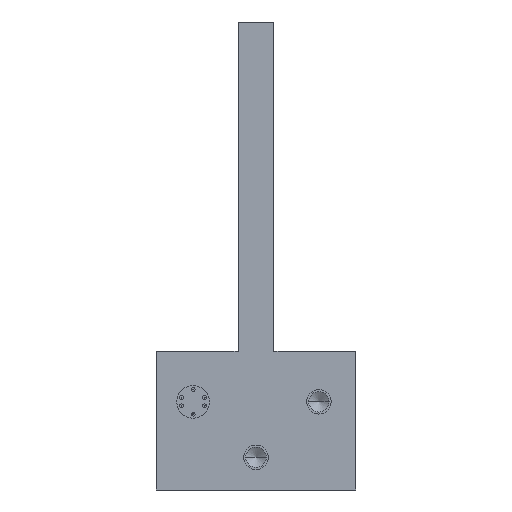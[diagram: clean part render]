
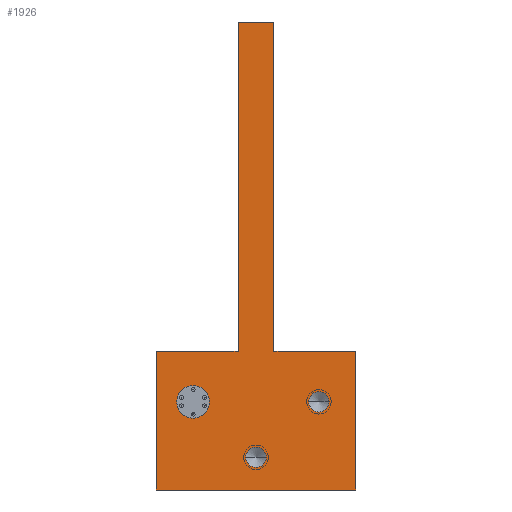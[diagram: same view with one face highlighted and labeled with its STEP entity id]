
A CAD part, front view. The second image highlights one B-rep face of the part: STEP entity #1926.
In plain terms, the highlighted planar face has unit normal (0, -1, 0).
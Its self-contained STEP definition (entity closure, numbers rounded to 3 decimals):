
#1=DIRECTION('',(1.,0.,0.));
#2=VECTOR('',#1,10.);
#3=CARTESIAN_POINT('',(2.2,-151.41,0.));
#4=LINE('',#3,#2);
#5=DIRECTION('',(0.,0.,-1.));
#6=VECTOR('',#5,17.);
#7=CARTESIAN_POINT('',(12.2,-151.41,0.));
#8=LINE('',#7,#6);
#9=DIRECTION('',(-1.,0.,0.));
#10=VECTOR('',#9,24.4);
#11=CARTESIAN_POINT('',(12.2,-151.41,-17.));
#12=LINE('',#11,#10);
#13=DIRECTION('',(0.,0.,1.));
#14=VECTOR('',#13,17.);
#15=CARTESIAN_POINT('',(-12.2,-151.41,-17.));
#16=LINE('',#15,#14);
#17=DIRECTION('',(1.,0.,0.));
#18=VECTOR('',#17,10.);
#19=CARTESIAN_POINT('',(-12.2,-151.41,0.));
#20=LINE('',#19,#18);
#21=DIRECTION('',(0.,0.,1.));
#22=VECTOR('',#21,40.3);
#23=CARTESIAN_POINT('',(-2.2,-151.41,0.));
#24=LINE('',#23,#22);
#25=DIRECTION('',(1.,0.,0.));
#26=VECTOR('',#25,4.4);
#27=CARTESIAN_POINT('',(-2.2,-151.41,40.3));
#28=LINE('',#27,#26);
#29=DIRECTION('',(0.,0.,-1.));
#30=VECTOR('',#29,40.3);
#31=CARTESIAN_POINT('',(2.2,-151.41,40.3));
#32=LINE('',#31,#30);
#33=CARTESIAN_POINT('',(0.,-151.41,-13.));
#34=DIRECTION('',(0.,-1.,0.));
#35=DIRECTION('',(-1.,0.,0.));
#36=AXIS2_PLACEMENT_3D('',#33,#34,#35);
#38=CARTESIAN_POINT('',(0.,-151.41,-13.));
#39=DIRECTION('',(0.,-1.,0.));
#40=DIRECTION('',(1.,0.,0.));
#41=AXIS2_PLACEMENT_3D('',#38,#39,#40);
#43=CARTESIAN_POINT('',(7.7,-151.41,-6.2));
#44=DIRECTION('',(0.,-1.,0.));
#45=DIRECTION('',(-1.,0.,0.));
#46=AXIS2_PLACEMENT_3D('',#43,#44,#45);
#48=CARTESIAN_POINT('',(7.7,-151.41,-6.2));
#49=DIRECTION('',(0.,-1.,0.));
#50=DIRECTION('',(1.,0.,0.));
#51=AXIS2_PLACEMENT_3D('',#48,#49,#50);
#53=CARTESIAN_POINT('',(-7.7,-151.41,-6.2));
#54=DIRECTION('',(0.,-1.,0.));
#55=DIRECTION('',(-1.,0.,0.));
#56=AXIS2_PLACEMENT_3D('',#53,#54,#55);
#58=CARTESIAN_POINT('',(-7.7,-151.41,-6.2));
#59=DIRECTION('',(0.,-1.,0.));
#60=DIRECTION('',(1.,0.,0.));
#61=AXIS2_PLACEMENT_3D('',#58,#59,#60);
#1469=CARTESIAN_POINT('',(2.2,-151.41,0.));
#1470=CARTESIAN_POINT('',(12.2,-151.41,0.));
#1471=VERTEX_POINT('',#1469);
#1472=VERTEX_POINT('',#1470);
#1473=CARTESIAN_POINT('',(12.2,-151.41,-17.));
#1474=VERTEX_POINT('',#1473);
#1475=CARTESIAN_POINT('',(-12.2,-151.41,-17.));
#1476=VERTEX_POINT('',#1475);
#1477=CARTESIAN_POINT('',(-12.2,-151.41,0.));
#1478=VERTEX_POINT('',#1477);
#1479=CARTESIAN_POINT('',(-2.2,-151.41,0.));
#1480=VERTEX_POINT('',#1479);
#1481=CARTESIAN_POINT('',(-2.2,-151.41,40.3));
#1482=VERTEX_POINT('',#1481);
#1483=CARTESIAN_POINT('',(2.2,-151.41,40.3));
#1484=VERTEX_POINT('',#1483);
#1507=CARTESIAN_POINT('',(-1.25,-151.41,-13.));
#1508=CARTESIAN_POINT('',(1.25,-151.41,-13.));
#1509=VERTEX_POINT('',#1507);
#1510=VERTEX_POINT('',#1508);
#1517=CARTESIAN_POINT('',(6.45,-151.41,-6.2));
#1518=CARTESIAN_POINT('',(8.95,-151.41,-6.2));
#1519=VERTEX_POINT('',#1517);
#1520=VERTEX_POINT('',#1518);
#1785=CARTESIAN_POINT('',(-9.7,-151.41,-6.2));
#1786=CARTESIAN_POINT('',(-5.7,-151.41,-6.2));
#1787=VERTEX_POINT('',#1785);
#1788=VERTEX_POINT('',#1786);
#1885=CARTESIAN_POINT('',(0.,-151.41,0.));
#1886=DIRECTION('',(0.,1.,0.));
#1887=DIRECTION('',(1.,0.,0.));
#1888=AXIS2_PLACEMENT_3D('',#1885,#1886,#1887);
#1889=PLANE('',#1888);
#1891=ORIENTED_EDGE('',*,*,#1890,.T.);
#1893=ORIENTED_EDGE('',*,*,#1892,.T.);
#1895=ORIENTED_EDGE('',*,*,#1894,.T.);
#1897=ORIENTED_EDGE('',*,*,#1896,.T.);
#1899=ORIENTED_EDGE('',*,*,#1898,.T.);
#1901=ORIENTED_EDGE('',*,*,#1900,.T.);
#1903=ORIENTED_EDGE('',*,*,#1902,.T.);
#1905=ORIENTED_EDGE('',*,*,#1904,.T.);
#1906=EDGE_LOOP('',(#1891,#1893,#1895,#1897,#1899,#1901,#1903,#1905));
#1907=FACE_OUTER_BOUND('',#1906,.F.);
#1909=ORIENTED_EDGE('',*,*,#1908,.T.);
#1911=ORIENTED_EDGE('',*,*,#1910,.T.);
#1912=EDGE_LOOP('',(#1909,#1911));
#1913=FACE_BOUND('',#1912,.F.);
#1915=ORIENTED_EDGE('',*,*,#1914,.T.);
#1917=ORIENTED_EDGE('',*,*,#1916,.T.);
#1918=EDGE_LOOP('',(#1915,#1917));
#1919=FACE_BOUND('',#1918,.F.);
#1921=ORIENTED_EDGE('',*,*,#1920,.T.);
#1923=ORIENTED_EDGE('',*,*,#1922,.T.);
#1924=EDGE_LOOP('',(#1921,#1923));
#1925=FACE_BOUND('',#1924,.F.);
#1926=ADVANCED_FACE('',(#1907,#1913,#1919,#1925),#1889,.F.);
#37=CIRCLE('',#36,1.25);
#42=CIRCLE('',#41,1.25);
#47=CIRCLE('',#46,1.25);
#52=CIRCLE('',#51,1.25);
#57=CIRCLE('',#56,2.);
#62=CIRCLE('',#61,2.);
#1890=EDGE_CURVE('',#1471,#1472,#4,.T.);
#1892=EDGE_CURVE('',#1472,#1474,#8,.T.);
#1894=EDGE_CURVE('',#1474,#1476,#12,.T.);
#1896=EDGE_CURVE('',#1476,#1478,#16,.T.);
#1898=EDGE_CURVE('',#1478,#1480,#20,.T.);
#1900=EDGE_CURVE('',#1480,#1482,#24,.T.);
#1902=EDGE_CURVE('',#1482,#1484,#28,.T.);
#1904=EDGE_CURVE('',#1484,#1471,#32,.T.);
#1908=EDGE_CURVE('',#1509,#1510,#37,.T.);
#1910=EDGE_CURVE('',#1510,#1509,#42,.T.);
#1914=EDGE_CURVE('',#1519,#1520,#47,.T.);
#1916=EDGE_CURVE('',#1520,#1519,#52,.T.);
#1920=EDGE_CURVE('',#1787,#1788,#57,.T.);
#1922=EDGE_CURVE('',#1788,#1787,#62,.T.);
